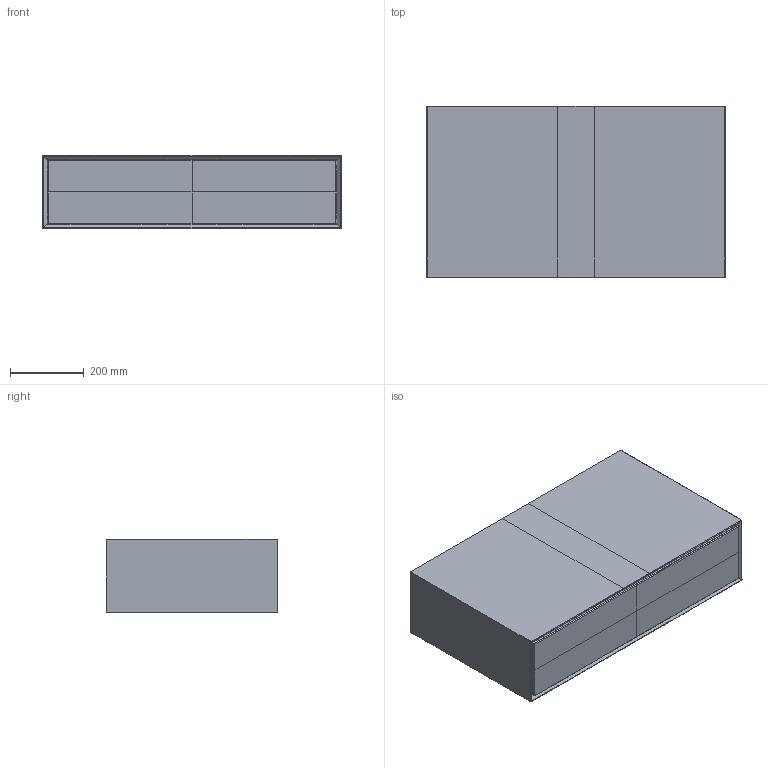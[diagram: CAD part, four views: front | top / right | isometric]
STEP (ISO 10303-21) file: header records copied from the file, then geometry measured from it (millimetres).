
FILE_DESCRIPTION(('CATIA V5 STEP Exchange'),'2;1');
FILE_NAME('C:\Users\Luca\Downloads\Art 8916 Cassetto legno-laccato 81.stp','2022-03-22T11:25:19+00:00',('none'),('none'),'CATIA Version 5 Release 19 SP 5 (IN-10)','CATIA V5 STEP AP214','none');
FILE_SCHEMA(('AUTOMOTIVE_DESIGN { 1 0 10303 214 1 1 1 1 }'));
Length unit declared in the file: millimetre
Products named in the file (1): ART 8916
Bounding box: 810 x 465.23 x 200.01 mm (x, y, z)
Volume: 21061302.6 mm3; surface area: 2418298 mm2
Topology: 3 solids, 3 shells, 92 faces, 218 edges, 119 vertices
Faces by surface type: bspline 50, plane 39, extrusion 3
Entity records: 21091 total; most frequent: CARTESIAN_POINT 19480, ORIENTED_EDGE 412, EDGE_CURVE 206, DIRECTION 170, VERTEX_POINT 119, EDGE_LOOP 93, VECTOR 92, ADVANCED_FACE 92
